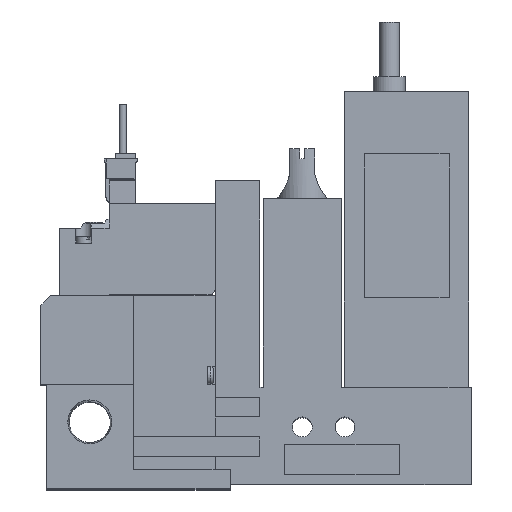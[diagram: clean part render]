
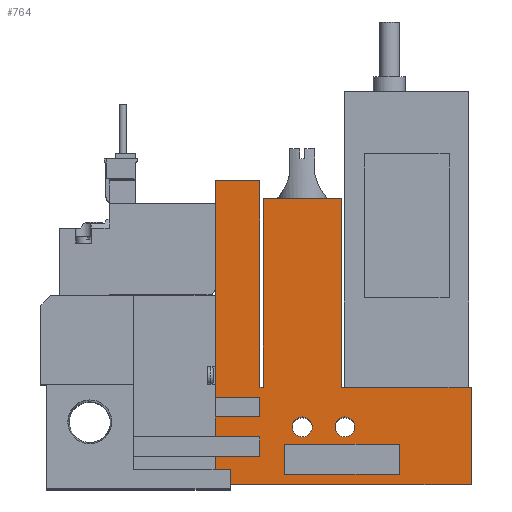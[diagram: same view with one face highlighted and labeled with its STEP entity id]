
A CAD part, top view. The second image highlights one B-rep face of the part: STEP entity #764.
In plain terms, the highlighted planar face has unit normal (0, 0, 1).
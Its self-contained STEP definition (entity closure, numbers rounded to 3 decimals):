
#764=ADVANCED_FACE('',(#1556,#1557,#1558,#1559),#1560,.T.);
#1556=FACE_OUTER_BOUND('',#2605,.T.);
#1557=FACE_BOUND('',#2606,.T.);
#1558=FACE_BOUND('',#2607,.T.);
#1559=FACE_BOUND('',#2608,.T.);
#1560=PLANE('',#2609);
#2605=EDGE_LOOP('',(#5377,#5378,#5379,#5380,#5381,#5382,#5383,#5384,#5385,#5386,#5387,#5388,#5389,#5390,#5391,#5392,#5393,#5394));
#2606=EDGE_LOOP('',(#5395,#5396,#5397,#5398));
#2607=EDGE_LOOP('',(#5399));
#2608=EDGE_LOOP('',(#5400));
#2609=AXIS2_PLACEMENT_3D('',#5401,#5402,#5403);
#5377=ORIENTED_EDGE('',*,*,#7284,.T.);
#5378=ORIENTED_EDGE('',*,*,#7194,.T.);
#5379=ORIENTED_EDGE('',*,*,#7285,.T.);
#5380=ORIENTED_EDGE('',*,*,#7250,.T.);
#5381=ORIENTED_EDGE('',*,*,#7286,.T.);
#5382=ORIENTED_EDGE('',*,*,#7277,.T.);
#5383=ORIENTED_EDGE('',*,*,#7287,.T.);
#5384=ORIENTED_EDGE('',*,*,#7202,.T.);
#5385=ORIENTED_EDGE('',*,*,#7288,.T.);
#5386=ORIENTED_EDGE('',*,*,#7289,.T.);
#5387=ORIENTED_EDGE('',*,*,#7290,.T.);
#5388=ORIENTED_EDGE('',*,*,#7291,.T.);
#5389=ORIENTED_EDGE('',*,*,#7292,.T.);
#5390=ORIENTED_EDGE('',*,*,#7293,.T.);
#5391=ORIENTED_EDGE('',*,*,#7244,.T.);
#5392=ORIENTED_EDGE('',*,*,#7294,.T.);
#5393=ORIENTED_EDGE('',*,*,#7295,.T.);
#5394=ORIENTED_EDGE('',*,*,#7296,.T.);
#5395=ORIENTED_EDGE('',*,*,#7297,.T.);
#5396=ORIENTED_EDGE('',*,*,#7298,.T.);
#5397=ORIENTED_EDGE('',*,*,#7185,.T.);
#5398=ORIENTED_EDGE('',*,*,#7274,.T.);
#5399=ORIENTED_EDGE('',*,*,#7299,.T.);
#5400=ORIENTED_EDGE('',*,*,#7300,.T.);
#5401=CARTESIAN_POINT('',(0.0,0.0,10.0));
#5402=DIRECTION('',(0.0,0.0,1.0));
#5403=DIRECTION('',(1.0,0.0,0.0));
#7185=EDGE_CURVE('',#8725,#8730,#8732,.T.);
#7194=EDGE_CURVE('',#8741,#8748,#8750,.T.);
#7202=EDGE_CURVE('',#8764,#8762,#8765,.T.);
#7244=EDGE_CURVE('',#8835,#8833,#8836,.T.);
#7250=EDGE_CURVE('',#8838,#8845,#8847,.T.);
#7274=EDGE_CURVE('',#8730,#8888,#8890,.T.);
#7277=EDGE_CURVE('',#8895,#8896,#8897,.T.);
#7284=EDGE_CURVE('',#8906,#8741,#8907,.T.);
#7285=EDGE_CURVE('',#8748,#8838,#8908,.T.);
#7286=EDGE_CURVE('',#8845,#8895,#8909,.T.);
#7287=EDGE_CURVE('',#8896,#8764,#8910,.T.);
#7288=EDGE_CURVE('',#8762,#8911,#8912,.T.);
#7289=EDGE_CURVE('',#8911,#8913,#8914,.T.);
#7290=EDGE_CURVE('',#8913,#8915,#8916,.T.);
#7291=EDGE_CURVE('',#8915,#8917,#8918,.T.);
#7292=EDGE_CURVE('',#8917,#8919,#8920,.T.);
#7293=EDGE_CURVE('',#8919,#8835,#8921,.T.);
#7294=EDGE_CURVE('',#8833,#8922,#8923,.T.);
#7295=EDGE_CURVE('',#8922,#8924,#8925,.T.);
#7296=EDGE_CURVE('',#8924,#8906,#8926,.T.);
#7297=EDGE_CURVE('',#8888,#8927,#8928,.T.);
#7298=EDGE_CURVE('',#8927,#8725,#8929,.T.);
#7299=EDGE_CURVE('',#8930,#8930,#8931,.T.);
#7300=EDGE_CURVE('',#8932,#8932,#8933,.T.);
#8725=VERTEX_POINT('',#11187);
#8730=VERTEX_POINT('',#11194);
#8732=LINE('',#11197,#11198);
#8741=VERTEX_POINT('',#11211);
#8748=VERTEX_POINT('',#11221);
#8750=LINE('',#11224,#11225);
#8762=VERTEX_POINT('',#11240);
#8764=VERTEX_POINT('',#11243);
#8765=LINE('',#11244,#11245);
#8833=VERTEX_POINT('',#11369);
#8835=VERTEX_POINT('',#11372);
#8836=LINE('',#11373,#11374);
#8838=VERTEX_POINT('',#11377);
#8845=VERTEX_POINT('',#11387);
#8847=LINE('',#11390,#11391);
#8888=VERTEX_POINT('',#11451);
#8890=LINE('',#11454,#11455);
#8895=VERTEX_POINT('',#11460);
#8896=VERTEX_POINT('',#11461);
#8897=LINE('',#11462,#11463);
#8906=VERTEX_POINT('',#11478);
#8907=LINE('',#11479,#11480);
#8908=LINE('',#11481,#11482);
#8909=LINE('',#11483,#11484);
#8910=LINE('',#11485,#11486);
#8911=VERTEX_POINT('',#11487);
#8912=LINE('',#11488,#11489);
#8913=VERTEX_POINT('',#11490);
#8914=LINE('',#11491,#11492);
#8915=VERTEX_POINT('',#11493);
#8916=LINE('',#11494,#11495);
#8917=VERTEX_POINT('',#11496);
#8918=LINE('',#11497,#11498);
#8919=VERTEX_POINT('',#11499);
#8920=LINE('',#11500,#11501);
#8921=LINE('',#11502,#11503);
#8922=VERTEX_POINT('',#11504);
#8923=LINE('',#11505,#11506);
#8924=VERTEX_POINT('',#11507);
#8925=LINE('',#11508,#11509);
#8926=LINE('',#11510,#11511);
#8927=VERTEX_POINT('',#11512);
#8928=LINE('',#11513,#11514);
#8929=LINE('',#11515,#11516);
#8930=VERTEX_POINT('',#11517);
#8931=CIRCLE('',#11518,2.0);
#8932=VERTEX_POINT('',#11519);
#8933=CIRCLE('',#11520,2.0);
#11187=CARTESIAN_POINT('',(72.1,8.0,10.0));
#11194=CARTESIAN_POINT('',(72.1,2.0,10.0));
#11197=CARTESIAN_POINT('',(72.1,0.0,10.0));
#11198=VECTOR('',#13222,1.0);
#11211=CARTESIAN_POINT('',(35.1,17.5,10.0));
#11221=CARTESIAN_POINT('',(44.1,17.5,10.0));
#11224=CARTESIAN_POINT('',(0.0,17.5,10.0));
#11225=VECTOR('',#13231,1.0);
#11240=CARTESIAN_POINT('',(35.1,5.5,10.0));
#11243=CARTESIAN_POINT('',(44.1,5.5,10.0));
#11244=CARTESIAN_POINT('',(0.0,5.5,10.0));
#11245=VECTOR('',#13245,1.0);
#11369=CARTESIAN_POINT('',(44.75,19.5,10.0));
#11372=CARTESIAN_POINT('',(44.75,57.5,10.0));
#11373=CARTESIAN_POINT('',(44.75,57.5,10.0));
#11374=VECTOR('',#13298,1.0);
#11377=CARTESIAN_POINT('',(44.1,13.5,10.0));
#11387=CARTESIAN_POINT('',(35.1,13.5,10.0));
#11390=CARTESIAN_POINT('',(0.0,13.5,10.0));
#11391=VECTOR('',#13304,1.0);
#11451=CARTESIAN_POINT('',(49.1,2.0,10.0));
#11454=CARTESIAN_POINT('',(0.0,2.0,10.0));
#11455=VECTOR('',#13334,1.0);
#11460=CARTESIAN_POINT('',(35.1,9.5,10.0));
#11461=CARTESIAN_POINT('',(44.1,9.5,10.0));
#11462=CARTESIAN_POINT('',(0.0,9.5,10.0));
#11463=VECTOR('',#13341,1.0);
#11478=CARTESIAN_POINT('',(35.1,61.0,10.0));
#11479=CARTESIAN_POINT('',(35.1,61.0,10.0));
#11480=VECTOR('',#13348,1.0);
#11481=CARTESIAN_POINT('',(44.1,0.0,10.0));
#11482=VECTOR('',#13349,1.0);
#11483=CARTESIAN_POINT('',(35.1,0.0,10.0));
#11484=VECTOR('',#13350,1.0);
#11485=CARTESIAN_POINT('',(44.1,0.0,10.0));
#11486=VECTOR('',#13351,1.0);
#11487=CARTESIAN_POINT('',(35.1,0.0,10.0));
#11488=CARTESIAN_POINT('',(35.1,0.0,10.0));
#11489=VECTOR('',#13352,1.0);
#11490=CARTESIAN_POINT('',(86.6,0.0,10.0));
#11491=CARTESIAN_POINT('',(18.6,0.0,10.0));
#11492=VECTOR('',#13353,1.0);
#11493=CARTESIAN_POINT('',(86.6,19.5,10.0));
#11494=CARTESIAN_POINT('',(86.6,0.0,10.0));
#11495=VECTOR('',#13354,1.0);
#11496=CARTESIAN_POINT('',(60.45,19.5,10.0));
#11497=CARTESIAN_POINT('',(86.6,19.5,10.0));
#11498=VECTOR('',#13355,1.0);
#11499=CARTESIAN_POINT('',(60.45,57.5,10.0));
#11500=CARTESIAN_POINT('',(60.45,19.5,10.0));
#11501=VECTOR('',#13356,1.0);
#11502=CARTESIAN_POINT('',(60.45,57.5,10.0));
#11503=VECTOR('',#13357,1.0);
#11504=CARTESIAN_POINT('',(44.1,19.5,10.0));
#11505=CARTESIAN_POINT('',(44.75,19.5,10.0));
#11506=VECTOR('',#13358,1.0);
#11507=CARTESIAN_POINT('',(44.1,61.0,10.0));
#11508=CARTESIAN_POINT('',(44.1,19.5,10.0));
#11509=VECTOR('',#13359,1.0);
#11510=CARTESIAN_POINT('',(44.1,61.0,10.0));
#11511=VECTOR('',#13360,1.0);
#11512=CARTESIAN_POINT('',(49.1,8.0,10.0));
#11513=CARTESIAN_POINT('',(49.1,0.0,10.0));
#11514=VECTOR('',#13361,1.0);
#11515=CARTESIAN_POINT('',(0.0,8.0,10.0));
#11516=VECTOR('',#13362,1.0);
#11517=CARTESIAN_POINT('',(54.6,11.5,10.0));
#11518=AXIS2_PLACEMENT_3D('',#13363,#13364,#13365);
#11519=CARTESIAN_POINT('',(63.2,11.5,10.0));
#11520=AXIS2_PLACEMENT_3D('',#13366,#13367,#13368);
#13222=DIRECTION('',(0.0,-1.0,0.0));
#13231=DIRECTION('',(1.0,0.0,0.0));
#13245=DIRECTION('',(-1.0,0.0,0.0));
#13298=DIRECTION('',(0.0,-1.0,0.0));
#13304=DIRECTION('',(-1.0,0.0,0.0));
#13334=DIRECTION('',(-1.0,0.0,0.0));
#13341=DIRECTION('',(1.0,0.0,0.0));
#13348=DIRECTION('',(0.0,-1.0,0.0));
#13349=DIRECTION('',(0.0,-1.0,0.0));
#13350=DIRECTION('',(0.0,-1.0,0.0));
#13351=DIRECTION('',(0.0,-1.0,0.0));
#13352=DIRECTION('',(0.0,-1.0,0.0));
#13353=DIRECTION('',(1.0,0.0,0.0));
#13354=DIRECTION('',(0.0,1.0,0.0));
#13355=DIRECTION('',(-1.0,0.0,0.0));
#13356=DIRECTION('',(0.0,1.0,0.0));
#13357=DIRECTION('',(-1.0,0.0,0.0));
#13358=DIRECTION('',(-1.0,0.0,0.0));
#13359=DIRECTION('',(0.0,1.0,0.0));
#13360=DIRECTION('',(-1.0,0.0,0.0));
#13361=DIRECTION('',(0.0,1.0,0.0));
#13362=DIRECTION('',(1.0,0.0,0.0));
#13363=CARTESIAN_POINT('',(52.6,11.5,10.0));
#13364=DIRECTION('',(0.0,0.0,-1.0));
#13365=DIRECTION('',(1.0,0.0,0.0));
#13366=CARTESIAN_POINT('',(61.2,11.5,10.0));
#13367=DIRECTION('',(0.0,0.0,-1.0));
#13368=DIRECTION('',(1.0,0.0,0.0));
